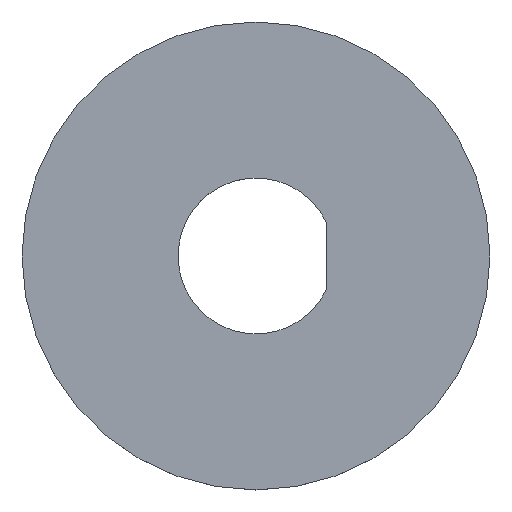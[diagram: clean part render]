
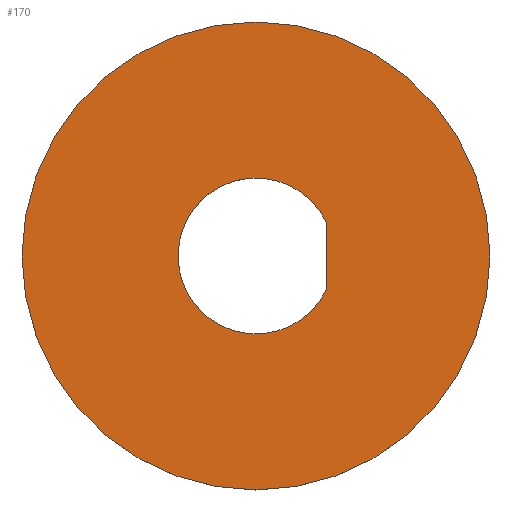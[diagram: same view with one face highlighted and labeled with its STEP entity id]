
A CAD part, top view. The second image highlights one B-rep face of the part: STEP entity #170.
In plain terms, the highlighted planar face has unit normal (0, 0, 1).
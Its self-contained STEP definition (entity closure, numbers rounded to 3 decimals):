
#24 = VERTEX_POINT('',#25);
#25 = CARTESIAN_POINT('',(12.3,0.,5.6));
#32 = CYLINDRICAL_SURFACE('',#33,12.3);
#33 = AXIS2_PLACEMENT_3D('',#34,#35,#36);
#34 = CARTESIAN_POINT('',(0.,0.,4.8));
#35 = DIRECTION('',(-0.,-0.,-1.));
#36 = DIRECTION('',(1.,0.,0.));
#51 = EDGE_CURVE('',#24,#24,#52,.T.);
#52 = SURFACE_CURVE('',#53,(#58,#65),.PCURVE_S1.);
#53 = CIRCLE('',#54,12.3);
#54 = AXIS2_PLACEMENT_3D('',#55,#56,#57);
#55 = CARTESIAN_POINT('',(0.,0.,5.6));
#56 = DIRECTION('',(0.,0.,1.));
#57 = DIRECTION('',(1.,0.,0.));
#58 = PCURVE('',#32,#59);
#59 = DEFINITIONAL_REPRESENTATION('',(#60),#64);
#60 = LINE('',#61,#62);
#61 = CARTESIAN_POINT('',(-0.,-0.8));
#62 = VECTOR('',#63,1.);
#63 = DIRECTION('',(-1.,0.));
#64 = ( GEOMETRIC_REPRESENTATION_CONTEXT(2) 
PARAMETRIC_REPRESENTATION_CONTEXT() REPRESENTATION_CONTEXT('2D SPACE',''
  ) );
#65 = PCURVE('',#66,#71);
#66 = PLANE('',#67);
#67 = AXIS2_PLACEMENT_3D('',#68,#69,#70);
#68 = CARTESIAN_POINT('',(0.,0.,5.6));
#69 = DIRECTION('',(0.,0.,1.));
#70 = DIRECTION('',(1.,0.,-0.));
#71 = DEFINITIONAL_REPRESENTATION('',(#72),#76);
#72 = CIRCLE('',#73,12.3);
#73 = AXIS2_PLACEMENT_2D('',#74,#75);
#74 = CARTESIAN_POINT('',(0.,0.));
#75 = DIRECTION('',(1.,0.));
#76 = ( GEOMETRIC_REPRESENTATION_CONTEXT(2) 
PARAMETRIC_REPRESENTATION_CONTEXT() REPRESENTATION_CONTEXT('2D SPACE',''
  ) );
#129 = PLANE('',#130);
#130 = AXIS2_PLACEMENT_3D('',#131,#132,#133);
#131 = CARTESIAN_POINT('',(3.7,-5.1,2.8));
#132 = DIRECTION('',(1.,0.,0.));
#133 = DIRECTION('',(0.,0.,1.));
#159 = CYLINDRICAL_SURFACE('',#160,4.1);
#160 = AXIS2_PLACEMENT_3D('',#161,#162,#163);
#161 = CARTESIAN_POINT('',(0.,0.,3.8));
#162 = DIRECTION('',(-0.,-0.,-1.));
#163 = DIRECTION('',(1.,0.,0.));
#170 = ADVANCED_FACE('',(#171,#174),#66,.T.);
#171 = FACE_BOUND('',#172,.T.);
#172 = EDGE_LOOP('',(#173));
#173 = ORIENTED_EDGE('',*,*,#51,.T.);
#174 = FACE_BOUND('',#175,.T.);
#175 = EDGE_LOOP('',(#176,#199));
#176 = ORIENTED_EDGE('',*,*,#177,.F.);
#177 = EDGE_CURVE('',#178,#180,#182,.T.);
#178 = VERTEX_POINT('',#179);
#179 = CARTESIAN_POINT('',(3.7,-1.766,5.6));
#180 = VERTEX_POINT('',#181);
#181 = CARTESIAN_POINT('',(3.7,1.766,5.6));
#182 = SURFACE_CURVE('',#183,(#187,#193),.PCURVE_S1.);
#183 = LINE('',#184,#185);
#184 = CARTESIAN_POINT('',(3.7,-2.55,5.6));
#185 = VECTOR('',#186,1.);
#186 = DIRECTION('',(0.,1.,0.));
#187 = PCURVE('',#66,#188);
#188 = DEFINITIONAL_REPRESENTATION('',(#189),#192);
#189 = B_SPLINE_CURVE_WITH_KNOTS('',1,(#190,#191),.UNSPECIFIED.,.F.,.F.,
  (2,2),(0.784,4.316),.PIECEWISE_BEZIER_KNOTS.);
#190 = CARTESIAN_POINT('',(3.7,-1.766));
#191 = CARTESIAN_POINT('',(3.7,1.766));
#192 = ( GEOMETRIC_REPRESENTATION_CONTEXT(2) 
PARAMETRIC_REPRESENTATION_CONTEXT() REPRESENTATION_CONTEXT('2D SPACE',''
  ) );
#193 = PCURVE('',#129,#194);
#194 = DEFINITIONAL_REPRESENTATION('',(#195),#198);
#195 = B_SPLINE_CURVE_WITH_KNOTS('',1,(#196,#197),.UNSPECIFIED.,.F.,.F.,
  (2,2),(0.784,4.316),.PIECEWISE_BEZIER_KNOTS.);
#196 = CARTESIAN_POINT('',(2.8,-3.334));
#197 = CARTESIAN_POINT('',(2.8,-6.866));
#198 = ( GEOMETRIC_REPRESENTATION_CONTEXT(2) 
PARAMETRIC_REPRESENTATION_CONTEXT() REPRESENTATION_CONTEXT('2D SPACE',''
  ) );
#199 = ORIENTED_EDGE('',*,*,#200,.T.);
#200 = EDGE_CURVE('',#178,#180,#201,.T.);
#201 = SURFACE_CURVE('',#202,(#207,#218),.PCURVE_S1.);
#202 = CIRCLE('',#203,4.1);
#203 = AXIS2_PLACEMENT_3D('',#204,#205,#206);
#204 = CARTESIAN_POINT('',(0.,0.,5.6));
#205 = DIRECTION('',(0.,0.,-1.));
#206 = DIRECTION('',(1.,0.,0.));
#207 = PCURVE('',#66,#208);
#208 = DEFINITIONAL_REPRESENTATION('',(#209),#217);
#209 = ( BOUNDED_CURVE() B_SPLINE_CURVE(2,(#210,#211,#212,#213,#214,#215
,#216),.UNSPECIFIED.,.T.,.F.) B_SPLINE_CURVE_WITH_KNOTS((1,2,2,2,2,1),(
    -2.094,0.,2.094,4.189,6.283,
8.378),.UNSPECIFIED.) CURVE() GEOMETRIC_REPRESENTATION_ITEM() 
RATIONAL_B_SPLINE_CURVE((1.,0.5,1.,0.5,1.,0.5,1.)) REPRESENTATION_ITEM(
  '') );
#210 = CARTESIAN_POINT('',(4.1,0.));
#211 = CARTESIAN_POINT('',(4.1,-7.101));
#212 = CARTESIAN_POINT('',(-2.05,-3.551));
#213 = CARTESIAN_POINT('',(-8.2,0.));
#214 = CARTESIAN_POINT('',(-2.05,3.551));
#215 = CARTESIAN_POINT('',(4.1,7.101));
#216 = CARTESIAN_POINT('',(4.1,0.));
#217 = ( GEOMETRIC_REPRESENTATION_CONTEXT(2) 
PARAMETRIC_REPRESENTATION_CONTEXT() REPRESENTATION_CONTEXT('2D SPACE',''
  ) );
#218 = PCURVE('',#159,#219);
#219 = DEFINITIONAL_REPRESENTATION('',(#220),#224);
#220 = LINE('',#221,#222);
#221 = CARTESIAN_POINT('',(-6.283,-1.8));
#222 = VECTOR('',#223,1.);
#223 = DIRECTION('',(1.,-0.));
#224 = ( GEOMETRIC_REPRESENTATION_CONTEXT(2) 
PARAMETRIC_REPRESENTATION_CONTEXT() REPRESENTATION_CONTEXT('2D SPACE',''
  ) );
